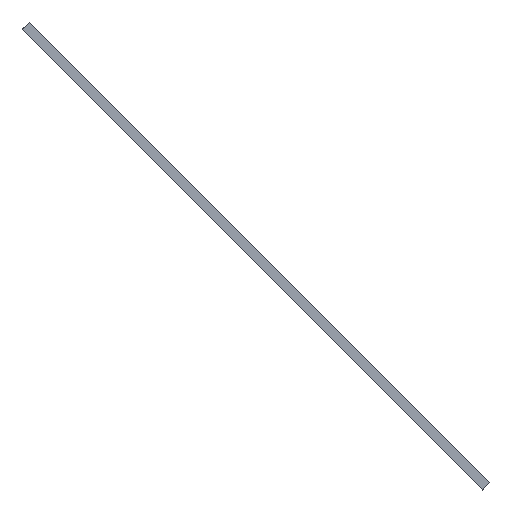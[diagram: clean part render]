
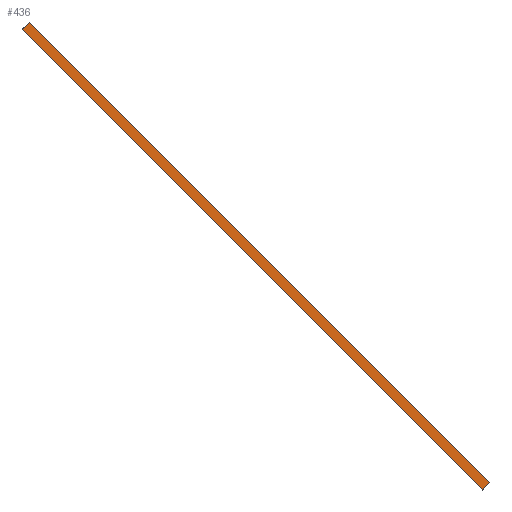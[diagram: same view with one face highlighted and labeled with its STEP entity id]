
A CAD part, top view. The second image highlights one B-rep face of the part: STEP entity #436.
In plain terms, the highlighted planar face has unit normal (0, 0, 1).
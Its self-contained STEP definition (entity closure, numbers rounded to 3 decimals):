
#21 = EDGE_CURVE('',#22,#24,#26,.T.);
#22 = VERTEX_POINT('',#23);
#23 = CARTESIAN_POINT('',(-1690.,1690.,385.));
#24 = VERTEX_POINT('',#25);
#25 = CARTESIAN_POINT('',(1690.,-1690.,385.));
#26 = SURFACE_CURVE('',#27,(#31,#43),.PCURVE_S1.);
#27 = LINE('',#28,#29);
#28 = CARTESIAN_POINT('',(-1690.,1690.,385.));
#29 = VECTOR('',#30,1.);
#30 = DIRECTION('',(0.707,-0.707,0.));
#31 = PCURVE('',#32,#37);
#32 = PLANE('',#33);
#33 = AXIS2_PLACEMENT_3D('',#34,#35,#36);
#34 = CARTESIAN_POINT('',(-1690.,1690.,385.));
#35 = DIRECTION('',(0.707,0.707,0.));
#36 = DIRECTION('',(0.,0.,-1.));
#37 = DEFINITIONAL_REPRESENTATION('',(#38),#42);
#38 = LINE('',#39,#40);
#39 = CARTESIAN_POINT('',(0.,0.));
#40 = VECTOR('',#41,1.);
#41 = DIRECTION('',(0.,-1.));
#42 = ( GEOMETRIC_REPRESENTATION_CONTEXT(2) 
PARAMETRIC_REPRESENTATION_CONTEXT() REPRESENTATION_CONTEXT('2D SPACE',''
  ) );
#43 = PCURVE('',#44,#49);
#44 = PLANE('',#45);
#45 = AXIS2_PLACEMENT_3D('',#46,#47,#48);
#46 = CARTESIAN_POINT('',(-1636.118,1743.882,385.));
#47 = DIRECTION('',(0.,-0.,-1.));
#48 = DIRECTION('',(-0.707,-0.707,0.));
#49 = DEFINITIONAL_REPRESENTATION('',(#50),#54);
#50 = LINE('',#51,#52);
#51 = CARTESIAN_POINT('',(76.2,0.));
#52 = VECTOR('',#53,1.);
#53 = DIRECTION('',(0.,-1.));
#54 = ( GEOMETRIC_REPRESENTATION_CONTEXT(2) 
PARAMETRIC_REPRESENTATION_CONTEXT() REPRESENTATION_CONTEXT('2D SPACE',''
  ) );
#72 = PLANE('',#73);
#73 = AXIS2_PLACEMENT_3D('',#74,#75,#76);
#74 = CARTESIAN_POINT('',(1706.628,-1673.372,
    361.485));
#75 = DIRECTION('',(0.707,-0.707,0.));
#76 = DIRECTION('',(0.707,0.707,0.));
#126 = PLANE('',#127);
#127 = AXIS2_PLACEMENT_3D('',#128,#129,#130);
#128 = CARTESIAN_POINT('',(-1673.372,1706.628,
    361.485));
#129 = DIRECTION('',(0.707,-0.707,0.));
#130 = DIRECTION('',(0.707,0.707,0.));
#333 = PLANE('',#334);
#334 = AXIS2_PLACEMENT_3D('',#335,#336,#337);
#335 = CARTESIAN_POINT('',(-1636.118,1743.882,
    375.475));
#336 = DIRECTION('',(-0.707,-0.707,0.));
#337 = DIRECTION('',(0.,0.,1.));
#371 = VERTEX_POINT('',#372);
#372 = CARTESIAN_POINT('',(1743.882,-1636.118,385.)
  );
#393 = EDGE_CURVE('',#394,#371,#396,.T.);
#394 = VERTEX_POINT('',#395);
#395 = CARTESIAN_POINT('',(-1636.118,1743.882,385.)
  );
#396 = SURFACE_CURVE('',#397,(#401,#408),.PCURVE_S1.);
#397 = LINE('',#398,#399);
#398 = CARTESIAN_POINT('',(-1636.118,1743.882,385.)
  );
#399 = VECTOR('',#400,1.);
#400 = DIRECTION('',(0.707,-0.707,0.));
#401 = PCURVE('',#333,#402);
#402 = DEFINITIONAL_REPRESENTATION('',(#403),#407);
#403 = LINE('',#404,#405);
#404 = CARTESIAN_POINT('',(9.525,0.));
#405 = VECTOR('',#406,1.);
#406 = DIRECTION('',(0.,-1.));
#407 = ( GEOMETRIC_REPRESENTATION_CONTEXT(2) 
PARAMETRIC_REPRESENTATION_CONTEXT() REPRESENTATION_CONTEXT('2D SPACE',''
  ) );
#408 = PCURVE('',#44,#409);
#409 = DEFINITIONAL_REPRESENTATION('',(#410),#414);
#410 = LINE('',#411,#412);
#411 = CARTESIAN_POINT('',(0.,0.));
#412 = VECTOR('',#413,1.);
#413 = DIRECTION('',(0.,-1.));
#414 = ( GEOMETRIC_REPRESENTATION_CONTEXT(2) 
PARAMETRIC_REPRESENTATION_CONTEXT() REPRESENTATION_CONTEXT('2D SPACE',''
  ) );
#436 = ADVANCED_FACE('',(#437),#44,.F.);
#437 = FACE_BOUND('',#438,.F.);
#438 = EDGE_LOOP('',(#439,#440,#461,#462));
#439 = ORIENTED_EDGE('',*,*,#393,.T.);
#440 = ORIENTED_EDGE('',*,*,#441,.T.);
#441 = EDGE_CURVE('',#371,#24,#442,.T.);
#442 = SURFACE_CURVE('',#443,(#447,#454),.PCURVE_S1.);
#443 = LINE('',#444,#445);
#444 = CARTESIAN_POINT('',(1743.882,-1636.118,385.)
  );
#445 = VECTOR('',#446,1.);
#446 = DIRECTION('',(-0.707,-0.707,0.));
#447 = PCURVE('',#44,#448);
#448 = DEFINITIONAL_REPRESENTATION('',(#449),#453);
#449 = LINE('',#450,#451);
#450 = CARTESIAN_POINT('',(0.,-4780.042));
#451 = VECTOR('',#452,1.);
#452 = DIRECTION('',(1.,0.));
#453 = ( GEOMETRIC_REPRESENTATION_CONTEXT(2) 
PARAMETRIC_REPRESENTATION_CONTEXT() REPRESENTATION_CONTEXT('2D SPACE',''
  ) );
#454 = PCURVE('',#72,#455);
#455 = DEFINITIONAL_REPRESENTATION('',(#456),#460);
#456 = LINE('',#457,#458);
#457 = CARTESIAN_POINT('',(52.685,23.515));
#458 = VECTOR('',#459,1.);
#459 = DIRECTION('',(-1.,0.));
#460 = ( GEOMETRIC_REPRESENTATION_CONTEXT(2) 
PARAMETRIC_REPRESENTATION_CONTEXT() REPRESENTATION_CONTEXT('2D SPACE',''
  ) );
#461 = ORIENTED_EDGE('',*,*,#21,.F.);
#462 = ORIENTED_EDGE('',*,*,#463,.F.);
#463 = EDGE_CURVE('',#394,#22,#464,.T.);
#464 = SURFACE_CURVE('',#465,(#469,#476),.PCURVE_S1.);
#465 = LINE('',#466,#467);
#466 = CARTESIAN_POINT('',(-1636.118,1743.882,385.)
  );
#467 = VECTOR('',#468,1.);
#468 = DIRECTION('',(-0.707,-0.707,0.));
#469 = PCURVE('',#44,#470);
#470 = DEFINITIONAL_REPRESENTATION('',(#471),#475);
#471 = LINE('',#472,#473);
#472 = CARTESIAN_POINT('',(0.,0.));
#473 = VECTOR('',#474,1.);
#474 = DIRECTION('',(1.,0.));
#475 = ( GEOMETRIC_REPRESENTATION_CONTEXT(2) 
PARAMETRIC_REPRESENTATION_CONTEXT() REPRESENTATION_CONTEXT('2D SPACE',''
  ) );
#476 = PCURVE('',#126,#477);
#477 = DEFINITIONAL_REPRESENTATION('',(#478),#482);
#478 = LINE('',#479,#480);
#479 = CARTESIAN_POINT('',(52.685,23.515));
#480 = VECTOR('',#481,1.);
#481 = DIRECTION('',(-1.,0.));
#482 = ( GEOMETRIC_REPRESENTATION_CONTEXT(2) 
PARAMETRIC_REPRESENTATION_CONTEXT() REPRESENTATION_CONTEXT('2D SPACE',''
  ) );
